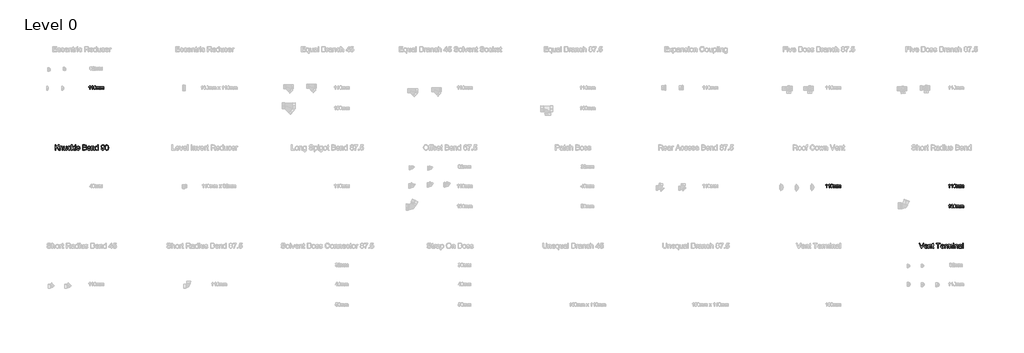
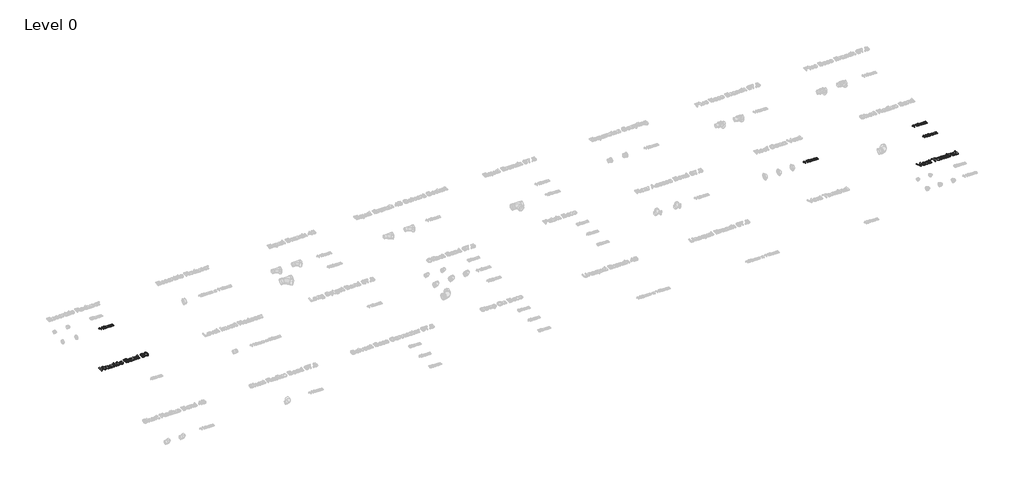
# One storey, part 8 of 28: 6 proxies.
"""IFC4 building model written with IfcOpenShell, lengths in millimetres."""

from ifc_helpers import new_model, si_unit, origin, origin_with_axes, place, context, project, spatial, polyline, outline, extrude, element, save

model = new_model("IFC4")

# Units and contexts
model_context = context("Model", 3, world=origin())
ifc_project = project(units=[si_unit("LENGTHUNIT", "METRE", prefix="MILLI")], contexts=[model_context])

# Site, building, storey
site = spatial("IfcSite", under=ifc_project)
building = spatial("IfcBuilding", under=site)
storey = spatial("IfcBuildingStorey", under=building, Name="Level 0", Elevation=0.0)

# Proxies
placement = place(None, origin())
element("IfcBuildingElementProxy", 1, Name="100mm Arial", ObjectType="100mm Arial", at=placement, inside=storey, context=model_context, shape_type="SweptSolid", body=[
    extrude(outline(polyline([(-20791.7293188, 2637.7167304), (-20804.0370111, 2637.7167304), (-20804.0370111, 2714.4474996), (-20815.6956649, 2706.1422111), (-20828.6523957, 2699.9282688), (-20828.6523957, 2711.5628842), (-20810.6115303, 2723.0773073), (-20799.6620111, 2736.1782688), (-20791.7293188, 2736.1782688), (-20791.7293188, 2637.7167304)])), origin_with_axes(), (0.0, 0.0, 1.0), 15.0),
    extrude(outline(polyline([(-20716.3447034, 2637.7167304), (-20728.6523957, 2637.7167304), (-20728.6523957, 2714.4474996), (-20740.3110495, 2706.1422111), (-20753.2677803, 2699.9282688), (-20753.2677803, 2711.5628842), (-20735.2269149, 2723.0773073), (-20724.2773957, 2736.1782688), (-20716.3447034, 2736.1782688), (-20716.3447034, 2637.7167304)])), origin_with_axes(), (0.0, 0.0, 1.0), 15.0),
    extrude(outline(polyline([(-20687.1139341, 2686.1542304), (-20683.4961457, 2714.4835573), (-20672.7509534, 2730.8176919), (-20654.8062418, 2736.1782688), (-20640.4312418, 2733.0051919), (-20630.5033572, 2723.8585573), (-20624.7341264, 2709.2912496), (-20622.4985495, 2686.1542304), (-20626.0802803, 2657.9450958), (-20636.7894149, 2641.5749035), (-20654.8062418, 2636.1782688), (-20667.5947034, 2638.5220188), (-20677.3062418, 2645.5532688), (-20684.6620111, 2662.2059131), (-20687.1139341, 2686.1542304)]), holes=[polyline([(-20674.8062418, 2686.1782688), (-20673.3639341, 2666.8182929), (-20669.0370111, 2655.613365), (-20662.5947034, 2650.2678121), (-20654.8062418, 2648.4859611), (-20647.0177803, 2650.2738217), (-20640.5754726, 2655.6374035), (-20636.2485495, 2666.848341), (-20634.8062418, 2686.1782688), (-20636.2004726, 2705.1025477), (-20640.3831649, 2716.394615), (-20646.8134534, 2722.0015861), (-20654.9504726, 2723.8705765), (-20662.6547995, 2722.2239419), (-20668.8447034, 2717.2840381), (-20673.3158572, 2705.2888458), (-20674.8062418, 2686.1782688)])]), origin_with_axes(), (0.0, 0.0, 1.0), 15.0),
    extrude(outline(polyline([(-20608.6523957, 2637.7167304), (-20608.6523957, 2710.0244227), (-20596.3447034, 2710.0244227), (-20596.3447034, 2698.1253842), (-20587.8831649, 2707.8729804), (-20575.8398957, 2711.5628842), (-20563.5081649, 2707.800865), (-20556.7293188, 2697.2599996), (-20547.1259534, 2707.9871631), (-20534.9985495, 2711.5628842), (-20525.7467466, 2710.0755044), (-20518.9047995, 2705.613365), (-20514.6770351, 2698.0562736), (-20513.2677803, 2687.2840381), (-20513.2677803, 2637.7167304), (-20525.5754726, 2637.7167304), (-20525.5754726, 2681.9955765), (-20526.7172995, 2692.2720188), (-20530.8519149, 2697.332115), (-20537.8831649, 2699.2551919), (-20549.9865303, 2694.3273073), (-20554.8062418, 2678.5340381), (-20554.8062418, 2637.7167304), (-20567.1139341, 2637.7167304), (-20567.1139341, 2683.3657688), (-20569.9624918, 2695.2888458), (-20579.3014341, 2699.2551919), (-20588.4120111, 2696.6109611), (-20594.4697034, 2688.8705765), (-20596.3447034, 2674.1830765), (-20596.3447034, 2637.7167304), (-20608.6523957, 2637.7167304)])), origin_with_axes(), (0.0, 0.0, 1.0), 15.0),
    extrude(outline(polyline([(-20494.8062418, 2637.7167304), (-20494.8062418, 2710.0244227), (-20482.4985495, 2710.0244227), (-20482.4985495, 2698.1253842), (-20474.0370111, 2707.8729804), (-20461.9937418, 2711.5628842), (-20449.6620111, 2707.800865), (-20442.8831649, 2697.2599996), (-20433.2797995, 2707.9871631), (-20421.1523957, 2711.5628842), (-20411.9005928, 2710.0755044), (-20405.0586457, 2705.613365), (-20400.8308813, 2698.0562736), (-20399.4216264, 2687.2840381), (-20399.4216264, 2637.7167304), (-20411.7293188, 2637.7167304), (-20411.7293188, 2681.9955765), (-20412.8711457, 2692.2720188), (-20417.0057611, 2697.332115), (-20424.0370111, 2699.2551919), (-20436.1403764, 2694.3273073), (-20440.960088, 2678.5340381), (-20440.960088, 2637.7167304), (-20453.2677803, 2637.7167304), (-20453.2677803, 2683.3657688), (-20456.116338, 2695.2888458), (-20465.4552803, 2699.2551919), (-20474.5658572, 2696.6109611), (-20480.6235495, 2688.8705765), (-20482.4985495, 2674.1830765), (-20482.4985495, 2637.7167304), (-20494.8062418, 2637.7167304)])), origin_with_axes(), (0.0, 0.0, 1.0), 15.0),
])
element("IfcBuildingElementProxy", 2, Name="100mm Arial", ObjectType="100mm Arial", at=placement, inside=storey, context=model_context, shape_type="SweptSolid", body=[
    extrude(outline(polyline([(208.2706812, -162.2832696), (195.9629889, -162.2832696), (195.9629889, -85.5525004), (184.3043351, -93.8577889), (171.3476043, -100.0717312), (171.3476043, -88.4371158), (189.3884697, -76.9226927), (200.3379889, -63.8217312), (208.2706812, -63.8217312), (208.2706812, -162.2832696)])), origin_with_axes(), (0.0, 0.0, 1.0), 15.0),
    extrude(outline(polyline([(283.6552966, -162.2832696), (271.3476043, -162.2832696), (271.3476043, -85.5525004), (259.6889505, -93.8577889), (246.7322197, -100.0717312), (246.7322197, -88.4371158), (264.7730851, -76.9226927), (275.7226043, -63.8217312), (283.6552966, -63.8217312), (283.6552966, -162.2832696)])), origin_with_axes(), (0.0, 0.0, 1.0), 15.0),
    extrude(outline(polyline([(312.8860659, -113.8457696), (316.5038543, -85.5164427), (327.2490466, -69.1823081), (345.1937582, -63.8217312), (359.5687582, -66.9948081), (369.4966428, -76.1414427), (375.2658736, -90.7087504), (377.5014505, -113.8457696), (373.9197197, -142.0549042), (363.2105851, -158.4250965), (345.1937582, -163.8217312), (332.4052966, -161.4779812), (322.6937582, -154.4467312), (315.3379889, -137.7940869), (312.8860659, -113.8457696)]), holes=[polyline([(325.1937582, -113.8217312), (326.6360659, -133.1817071), (330.9629889, -144.386635), (337.4052966, -149.7321879), (345.1937582, -151.5140389), (352.9822197, -149.7261783), (359.4245274, -144.3625965), (363.7514505, -133.151659), (365.1937582, -113.8217312), (363.7995274, -94.8974523), (359.6168351, -83.605385), (353.1865466, -77.9984139), (345.0495274, -76.1294235), (337.3452005, -77.7760581), (331.1552966, -82.7159619), (326.6841428, -94.7111542), (325.1937582, -113.8217312)])]), origin_with_axes(), (0.0, 0.0, 1.0), 15.0),
    extrude(outline(polyline([(391.3476043, -162.2832696), (391.3476043, -89.9755773), (403.6552966, -89.9755773), (403.6552966, -101.8746158), (412.1168351, -92.1270196), (424.1601043, -88.4371158), (436.4918351, -92.199135), (443.2706812, -102.7400004), (452.8740466, -92.0128369), (465.0014505, -88.4371158), (474.2532534, -89.9244956), (481.0952005, -94.386635), (485.3229649, -101.9437264), (486.7322197, -112.7159619), (486.7322197, -162.2832696), (474.4245274, -162.2832696), (474.4245274, -118.0044235), (473.2827005, -107.7279812), (469.1480851, -102.667885), (462.1168351, -100.7448081), (450.0134697, -105.6726927), (445.1937582, -121.4659619), (445.1937582, -162.2832696), (432.8860659, -162.2832696), (432.8860659, -116.6342312), (430.0375082, -104.7111542), (420.6985659, -100.7448081), (411.5879889, -103.3890389), (405.5302966, -111.1294235), (403.6552966, -125.8169235), (403.6552966, -162.2832696), (391.3476043, -162.2832696)])), origin_with_axes(), (0.0, 0.0, 1.0), 15.0),
    extrude(outline(polyline([(505.1937582, -162.2832696), (505.1937582, -89.9755773), (517.5014505, -89.9755773), (517.5014505, -101.8746158), (525.9629889, -92.1270196), (538.0062582, -88.4371158), (550.3379889, -92.199135), (557.1168351, -102.7400004), (566.7202005, -92.0128369), (578.8476043, -88.4371158), (588.0994072, -89.9244956), (594.9413543, -94.386635), (599.1691187, -101.9437264), (600.5783736, -112.7159619), (600.5783736, -162.2832696), (588.2706812, -162.2832696), (588.2706812, -118.0044235), (587.1288543, -107.7279812), (582.9942389, -102.667885), (575.9629889, -100.7448081), (563.8596236, -105.6726927), (559.039912, -121.4659619), (559.039912, -162.2832696), (546.7322197, -162.2832696), (546.7322197, -116.6342312), (543.883662, -104.7111542), (534.5447197, -100.7448081), (525.4341428, -103.3890389), (519.3764505, -111.1294235), (517.5014505, -125.8169235), (517.5014505, -162.2832696), (505.1937582, -162.2832696)])), origin_with_axes(), (0.0, 0.0, 1.0), 15.0),
])
element("IfcBuildingElementProxy", 3, Name="100mm Arial", ObjectType="100mm Arial", at=placement, inside=storey, context=model_context, shape_type="SweptSolid", body=[
    extrude(outline(polyline([(3708.2706812, -162.2832696), (3695.9629889, -162.2832696), (3695.9629889, -85.5525004), (3684.3043351, -93.8577889), (3671.3476043, -100.0717312), (3671.3476043, -88.4371158), (3689.3884697, -76.9226927), (3700.3379889, -63.8217312), (3708.2706812, -63.8217312), (3708.2706812, -162.2832696)])), origin_with_axes(), (0.0, 0.0, 1.0), 15.0),
    extrude(outline(polyline([(3783.6552966, -162.2832696), (3771.3476043, -162.2832696), (3771.3476043, -85.5525004), (3759.6889505, -93.8577889), (3746.7322197, -100.0717312), (3746.7322197, -88.4371158), (3764.7730851, -76.9226927), (3775.7226043, -63.8217312), (3783.6552966, -63.8217312), (3783.6552966, -162.2832696)])), origin_with_axes(), (0.0, 0.0, 1.0), 15.0),
    extrude(outline(polyline([(3812.8860659, -113.8457696), (3816.5038543, -85.5164427), (3827.2490466, -69.1823081), (3845.1937582, -63.8217312), (3859.5687582, -66.9948081), (3869.4966428, -76.1414427), (3875.2658736, -90.7087504), (3877.5014505, -113.8457696), (3873.9197197, -142.0549042), (3863.2105851, -158.4250965), (3845.1937582, -163.8217312), (3832.4052966, -161.4779812), (3822.6937582, -154.4467312), (3815.3379889, -137.7940869), (3812.8860659, -113.8457696)]), holes=[polyline([(3825.1937582, -113.8217312), (3826.6360659, -133.1817071), (3830.9629889, -144.386635), (3837.4052966, -149.7321879), (3845.1937582, -151.5140389), (3852.9822197, -149.7261783), (3859.4245274, -144.3625965), (3863.7514505, -133.151659), (3865.1937582, -113.8217312), (3863.7995274, -94.8974523), (3859.6168351, -83.605385), (3853.1865466, -77.9984139), (3845.0495274, -76.1294235), (3837.3452005, -77.7760581), (3831.1552966, -82.7159619), (3826.6841428, -94.7111542), (3825.1937582, -113.8217312)])]), origin_with_axes(), (0.0, 0.0, 1.0), 15.0),
    extrude(outline(polyline([(3891.3476043, -162.2832696), (3891.3476043, -89.9755773), (3903.6552966, -89.9755773), (3903.6552966, -101.8746158), (3912.1168351, -92.1270196), (3924.1601043, -88.4371158), (3936.4918351, -92.199135), (3943.2706812, -102.7400004), (3952.8740466, -92.0128369), (3965.0014505, -88.4371158), (3974.2532534, -89.9244956), (3981.0952005, -94.386635), (3985.3229649, -101.9437264), (3986.7322197, -112.7159619), (3986.7322197, -162.2832696), (3974.4245274, -162.2832696), (3974.4245274, -118.0044235), (3973.2827005, -107.7279812), (3969.1480851, -102.667885), (3962.1168351, -100.7448081), (3950.0134697, -105.6726927), (3945.1937582, -121.4659619), (3945.1937582, -162.2832696), (3932.8860659, -162.2832696), (3932.8860659, -116.6342312), (3930.0375082, -104.7111542), (3920.6985659, -100.7448081), (3911.5879889, -103.3890389), (3905.5302966, -111.1294235), (3903.6552966, -125.8169235), (3903.6552966, -162.2832696), (3891.3476043, -162.2832696)])), origin_with_axes(), (0.0, 0.0, 1.0), 15.0),
    extrude(outline(polyline([(4005.1937582, -162.2832696), (4005.1937582, -89.9755773), (4017.5014505, -89.9755773), (4017.5014505, -101.8746158), (4025.9629889, -92.1270196), (4038.0062582, -88.4371158), (4050.3379889, -92.199135), (4057.1168351, -102.7400004), (4066.7202005, -92.0128369), (4078.8476043, -88.4371158), (4088.0994072, -89.9244956), (4094.9413543, -94.386635), (4099.1691187, -101.9437264), (4100.5783736, -112.7159619), (4100.5783736, -162.2832696), (4088.2706812, -162.2832696), (4088.2706812, -118.0044235), (4087.1288543, -107.7279812), (4082.9942389, -102.667885), (4075.9629889, -100.7448081), (4063.8596236, -105.6726927), (4059.039912, -121.4659619), (4059.039912, -162.2832696), (4046.7322197, -162.2832696), (4046.7322197, -116.6342312), (4043.883662, -104.7111542), (4034.5447197, -100.7448081), (4025.4341428, -103.3890389), (4019.3764505, -111.1294235), (4017.5014505, -125.8169235), (4017.5014505, -162.2832696), (4005.1937582, -162.2832696)])), origin_with_axes(), (0.0, 0.0, 1.0), 15.0),
])
element("IfcBuildingElementProxy", 4, Name="100mm Arial", ObjectType="100mm Arial", at=placement, inside=storey, context=model_context, shape_type="SweptSolid", body=[
    extrude(outline(polyline([(3708.2706812, -742.2832696), (3695.9629889, -742.2832696), (3695.9629889, -665.5525004), (3684.3043351, -673.8577889), (3671.3476043, -680.0717312), (3671.3476043, -668.4371158), (3689.3884697, -656.9226927), (3700.3379889, -643.8217312), (3708.2706812, -643.8217312), (3708.2706812, -742.2832696)])), origin_with_axes(), (0.0, 0.0, 1.0), 15.0),
    extrude(outline(polyline([(3800.5783736, -669.9755773), (3788.2706812, -671.5140389), (3783.6072197, -661.2496158), (3771.2754889, -656.1294235), (3760.1697197, -659.1101927), (3751.7682774, -670.3000965), (3748.2706812, -692.2351927), (3759.1240466, -682.4154812), (3772.5735659, -679.2063465), (3783.9437582, -681.3998562), (3793.4870274, -687.980385), (3799.9593832, -698.0344715), (3802.1168351, -710.6486542), (3798.0543351, -727.6318273), (3786.8764505, -739.6510581), (3770.7466428, -743.8217312), (3756.7833014, -741.0573081), (3745.6625082, -732.7640389), (3738.3878687, -718.1246158), (3735.9629889, -696.3217312), (3738.6552966, -671.80851), (3746.7322197, -655.0476927), (3757.7598639, -646.6282215), (3772.0447197, -643.8217312), (3782.8439986, -645.55851), (3791.4918351, -650.7688465), (3797.5495274, -659.0440869), (3800.5783736, -669.9755773)]), holes=[polyline([(3748.2706812, -710.4563465), (3751.1192389, -721.1174042), (3758.6913543, -728.8577889), (3769.7851043, -731.5140389), (3777.9070995, -730.1378369), (3784.2923159, -726.0092312), (3788.4299361, -719.5188465), (3789.8091428, -711.0573081), (3788.4479649, -702.9353129), (3784.3644312, -696.7424042), (3769.2802966, -691.5140389), (3754.3884697, -696.7424042), (3749.8001284, -702.7850725), (3748.2706812, -710.4563465)])]), origin_with_axes(), (0.0, 0.0, 1.0), 15.0),
    extrude(outline(polyline([(3812.8860659, -693.8457696), (3816.5038543, -665.5164427), (3827.2490466, -649.1823081), (3845.1937582, -643.8217312), (3859.5687582, -646.9948081), (3869.4966428, -656.1414427), (3875.2658736, -670.7087504), (3877.5014505, -693.8457696), (3873.9197197, -722.0549042), (3863.2105851, -738.4250965), (3845.1937582, -743.8217312), (3832.4052966, -741.4779812), (3822.6937582, -734.4467312), (3815.3379889, -717.7940869), (3812.8860659, -693.8457696)]), holes=[polyline([(3825.1937582, -693.8217312), (3826.6360659, -713.1817071), (3830.9629889, -724.386635), (3837.4052966, -729.7321879), (3845.1937582, -731.5140389), (3852.9822197, -729.7261783), (3859.4245274, -724.3625965), (3863.7514505, -713.151659), (3865.1937582, -693.8217312), (3863.7995274, -674.8974523), (3859.6168351, -663.605385), (3853.1865466, -657.9984139), (3845.0495274, -656.1294235), (3837.3452005, -657.7760581), (3831.1552966, -662.7159619), (3826.6841428, -674.7111542), (3825.1937582, -693.8217312)])]), origin_with_axes(), (0.0, 0.0, 1.0), 15.0),
    extrude(outline(polyline([(3891.3476043, -742.2832696), (3891.3476043, -669.9755773), (3903.6552966, -669.9755773), (3903.6552966, -681.8746158), (3912.1168351, -672.1270196), (3924.1601043, -668.4371158), (3936.4918351, -672.199135), (3943.2706812, -682.7400004), (3952.8740466, -672.0128369), (3965.0014505, -668.4371158), (3974.2532534, -669.9244956), (3981.0952005, -674.386635), (3985.3229649, -681.9437264), (3986.7322197, -692.7159619), (3986.7322197, -742.2832696), (3974.4245274, -742.2832696), (3974.4245274, -698.0044235), (3973.2827005, -687.7279812), (3969.1480851, -682.667885), (3962.1168351, -680.7448081), (3950.0134697, -685.6726927), (3945.1937582, -701.4659619), (3945.1937582, -742.2832696), (3932.8860659, -742.2832696), (3932.8860659, -696.6342312), (3930.0375082, -684.7111542), (3920.6985659, -680.7448081), (3911.5879889, -683.3890389), (3905.5302966, -691.1294235), (3903.6552966, -705.8169235), (3903.6552966, -742.2832696), (3891.3476043, -742.2832696)])), origin_with_axes(), (0.0, 0.0, 1.0), 15.0),
    extrude(outline(polyline([(4005.1937582, -742.2832696), (4005.1937582, -669.9755773), (4017.5014505, -669.9755773), (4017.5014505, -681.8746158), (4025.9629889, -672.1270196), (4038.0062582, -668.4371158), (4050.3379889, -672.199135), (4057.1168351, -682.7400004), (4066.7202005, -672.0128369), (4078.8476043, -668.4371158), (4088.0994072, -669.9244956), (4094.9413543, -674.386635), (4099.1691187, -681.9437264), (4100.5783736, -692.7159619), (4100.5783736, -742.2832696), (4088.2706812, -742.2832696), (4088.2706812, -698.0044235), (4087.1288543, -687.7279812), (4082.9942389, -682.667885), (4075.9629889, -680.7448081), (4063.8596236, -685.6726927), (4059.039912, -701.4659619), (4059.039912, -742.2832696), (4046.7322197, -742.2832696), (4046.7322197, -696.6342312), (4043.883662, -684.7111542), (4034.5447197, -680.7448081), (4025.4341428, -683.3890389), (4019.3764505, -691.1294235), (4017.5014505, -705.8169235), (4017.5014505, -742.2832696), (4005.1937582, -742.2832696)])), origin_with_axes(), (0.0, 0.0, 1.0), 15.0),
])
element("IfcBuildingElementProxy", 5, Name="150mm Arial", ObjectType="150mm Arial", at=placement, inside=storey, context=model_context, shape_type="SweptSolid", body=[
    extrude(outline(polyline([(-21785.9895281, 905.2145219), (-21785.9895281, 1052.9068296), (-21767.5279897, 1052.9068296), (-21767.5279897, 980.6111565), (-21691.8068358, 1052.9068296), (-21665.9895281, 1052.9068296), (-21729.5592397, 992.1856758), (-21663.6818358, 905.2145219), (-21686.2539512, 905.2145219), (-21742.648182, 979.7097142), (-21767.5279897, 955.9837527), (-21767.5279897, 905.2145219), (-21785.9895281, 905.2145219)])), origin_with_axes(), (0.0, 0.0, 1.0), 25.0),
    extrude(outline(polyline([(-21652.1433743, 905.2145219), (-21652.1433743, 1013.6760604), (-21633.6818358, 1013.6760604), (-21633.6818358, 998.5318296), (-21619.5652493, 1011.6207719), (-21600.2924127, 1015.9837527), (-21582.8585185, 1012.4681277), (-21570.95948, 1003.2373585), (-21565.4246243, 989.6616373), (-21564.4510666, 971.8130796), (-21564.4510666, 905.2145219), (-21582.912605, 905.2145219), (-21582.912605, 969.3250988), (-21585.0400089, 985.6592335), (-21592.5580377, 994.2950508), (-21605.2323166, 997.5222142), (-21616.0451171, 995.7103152), (-21625.2623647, 990.2746181), (-21631.576968, 979.7728152), (-21633.6818358, 962.7625988), (-21633.6818358, 905.2145219), (-21652.1433743, 905.2145219)])), origin_with_axes(), (0.0, 0.0, 1.0), 25.0),
    extrude(outline(polyline([(-21469.835682, 905.2145219), (-21469.835682, 923.8563488), (-21484.2948166, 908.1442094), (-21503.1529897, 902.9068296), (-21520.5147685, 906.5847142), (-21532.4859223, 915.8154835), (-21537.9847204, 929.4092335), (-21539.0664512, 946.572695), (-21539.0664512, 1013.6760604), (-21520.6049127, 1013.6760604), (-21520.6049127, 955.2625988), (-21519.4871243, 936.4404835), (-21512.1854416, 925.3888008), (-21498.429432, 921.3683681), (-21483.0147685, 925.478945), (-21472.8284704, 936.6748585), (-21469.835682, 957.2457719), (-21469.835682, 1013.6760604), (-21451.3741435, 1013.6760604), (-21451.3741435, 905.2145219), (-21469.835682, 905.2145219)])), origin_with_axes(), (0.0, 0.0, 1.0), 25.0),
    extrude(outline(polyline([(-21356.7587589, 944.4452911), (-21338.2972204, 942.1375988), (-21343.444456, 925.7178272), (-21353.116932, 913.3094738), (-21366.4041916, 905.5074907), (-21382.3957781, 902.9068296), (-21402.0336988, 906.5351349), (-21417.3897685, 917.4200508), (-21427.3011267, 935.0838128), (-21430.6049127, 959.0486565), (-21424.9618839, 989.7157238), (-21417.8404897, 1001.2136205), (-21407.7623647, 1009.4212527), (-21395.7055738, 1014.3431277), (-21382.648182, 1015.9837527), (-21367.0487228, 1013.7301469), (-21354.5772685, 1006.9693296), (-21345.6304536, 996.0618777), (-21340.6049127, 981.3683681), (-21359.0664512, 979.0606758), (-21367.6301531, 992.8888008), (-21382.5039512, 997.5222142), (-21394.4345401, 995.2415652), (-21403.9041916, 988.3996181), (-21410.0835786, 976.6267815), (-21412.1433743, 959.5534642), (-21410.1286507, 942.2502791), (-21404.08448, 930.4368777), (-21394.7861026, 923.6354955), (-21383.0087589, 921.3683681), (-21373.4489632, 922.7836325), (-21365.6109223, 927.0294258), (-21359.9092997, 934.213921), (-21356.7587589, 944.4452911)])), origin_with_axes(), (0.0, 0.0, 1.0), 25.0),
    extrude(outline(polyline([(-21322.1433743, 905.2145219), (-21322.1433743, 1052.9068296), (-21303.6818358, 1052.9068296), (-21303.6818358, 973.5438488), (-21262.287605, 1013.6760604), (-21236.7587589, 1013.6760604), (-21278.6577973, 973.0390411), (-21234.4510666, 905.2145219), (-21256.0135666, 905.2145219), (-21291.8909704, 960.2025027), (-21303.6818358, 948.7722142), (-21303.6818358, 905.2145219), (-21322.1433743, 905.2145219)])), origin_with_axes(), (0.0, 0.0, 1.0), 25.0),
    extrude(outline(polyline([(-21218.2972204, 905.2145219), (-21218.2972204, 1052.9068296), (-21199.835682, 1052.9068296), (-21199.835682, 905.2145219), (-21218.2972204, 905.2145219)])), origin_with_axes(), (0.0, 0.0, 1.0), 25.0),
    extrude(outline(polyline([(-21096.2058743, 937.5222142), (-21078.1049127, 935.2145219), (-21084.6268478, 921.5756998), (-21095.0339993, 911.3803873), (-21109.0919921, 905.025219), (-21126.5664512, 902.9068296), (-21148.2281098, 906.5621782), (-21164.8957781, 917.5282238), (-21175.5237829, 935.0928272), (-21179.0664512, 958.5438488), (-21175.4877252, 982.7836325), (-21164.7515473, 1000.9116373), (-21148.3092397, 1012.2157238), (-21127.6121243, 1015.9837527), (-21107.5595401, 1012.2247383), (-21091.5364031, 1000.947695), (-21081.030093, 982.8557479), (-21077.5279897, 958.6520219), (-21077.6361627, 953.6760604), (-21160.6049127, 953.6760604), (-21157.4092997, 939.8569498), (-21149.9859223, 929.697695), (-21139.2722805, 923.4506998), (-21126.2058743, 921.3683681), (-21108.1049127, 925.2265411), (-21096.2058743, 937.5222142)]), holes=[polyline([(-21160.6049127, 972.1375988), (-21095.9895281, 972.1375988), (-21098.4865233, 981.8912046), (-21103.381355, 988.8683681), (-21114.1445762, 995.3587527), (-21127.6842397, 997.5222142), (-21140.1286507, 995.7959522), (-21150.4186147, 990.6171661), (-21157.5715594, 982.5447503), (-21160.6049127, 972.1375988)])]), origin_with_axes(), (0.0, 0.0, 1.0), 25.0),
    extrude(outline(polyline([(-20999.0664512, 905.2145219), (-20999.0664512, 1052.9068296), (-20942.7082781, 1052.9068296), (-20915.1061147, 1048.5618777), (-20905.8302733, 1043.049558), (-20898.8080377, 1035.2025027), (-20892.912605, 1016.3082719), (-20897.8705377, 999.0546661), (-20912.8525089, 985.9837527), (-20902.3912709, 980.5210123), (-20894.6614031, 972.2097142), (-20889.8882661, 961.5997383), (-20888.2972204, 949.2409642), (-20892.6421723, 929.3912046), (-20903.4053935, 915.2565892), (-20919.4690954, 907.7565892), (-20943.1409704, 905.2145219), (-20999.0664512, 905.2145219)]), holes=[polyline([(-20980.6049127, 923.6760604), (-20942.7443358, 923.6760604), (-20929.0424127, 924.3972142), (-20917.4498647, 928.4176469), (-20909.7695762, 936.6207719), (-20906.7587589, 949.0606758), (-20910.2924127, 963.4116373), (-20921.74073, 971.9753392), (-20944.5472204, 974.4452911), (-20980.6049127, 974.4452911), (-20980.6049127, 923.6760604)]), polyline([(-20980.6049127, 992.9068296), (-20946.8909704, 992.9068296), (-20927.2034704, 994.4933681), (-20915.3585185, 1001.3263008), (-20911.3741435, 1013.3515411), (-20915.0880858, 1025.3948104), (-20925.725105, 1032.5162046), (-20949.4510666, 1034.4452911), (-20980.6049127, 1034.4452911), (-20980.6049127, 992.9068296)])]), origin_with_axes(), (0.0, 0.0, 1.0), 25.0),
    extrude(outline(polyline([(-20789.2827973, 937.5222142), (-20771.1818358, 935.2145219), (-20777.7037709, 921.5756998), (-20788.1109223, 911.3803873), (-20802.1689151, 905.025219), (-20819.6433743, 902.9068296), (-20841.3050329, 906.5621782), (-20857.9727012, 917.5282238), (-20868.600706, 935.0928272), (-20872.1433743, 958.5438488), (-20868.5646483, 982.7836325), (-20857.8284704, 1000.9116373), (-20841.3861627, 1012.2157238), (-20820.6890473, 1015.9837527), (-20800.6364632, 1012.2247383), (-20784.6133262, 1000.947695), (-20774.1070161, 982.8557479), (-20770.6049127, 958.6520219), (-20770.7130858, 953.6760604), (-20853.6818358, 953.6760604), (-20850.4862228, 939.8569498), (-20843.0628454, 929.697695), (-20832.3492036, 923.4506998), (-20819.2827973, 921.3683681), (-20801.1818358, 925.2265411), (-20789.2827973, 937.5222142)]), holes=[polyline([(-20853.6818358, 972.1375988), (-20789.0664512, 972.1375988), (-20791.5634464, 981.8912046), (-20796.4582781, 988.8683681), (-20807.2214993, 995.3587527), (-20820.7611627, 997.5222142), (-20833.2055738, 995.7959522), (-20843.4955377, 990.6171661), (-20850.6484824, 982.5447503), (-20853.6818358, 972.1375988)])]), origin_with_axes(), (0.0, 0.0, 1.0), 25.0),
    extrude(outline(polyline([(-20752.1433743, 905.2145219), (-20752.1433743, 1013.6760604), (-20733.6818358, 1013.6760604), (-20733.6818358, 998.5318296), (-20719.5652493, 1011.6207719), (-20700.2924127, 1015.9837527), (-20682.8585185, 1012.4681277), (-20670.95948, 1003.2373585), (-20665.4246243, 989.6616373), (-20664.4510666, 971.8130796), (-20664.4510666, 905.2145219), (-20682.912605, 905.2145219), (-20682.912605, 969.3250988), (-20685.0400089, 985.6592335), (-20692.5580377, 994.2950508), (-20705.2323166, 997.5222142), (-20716.0451171, 995.7103152), (-20725.2623647, 990.2746181), (-20731.576968, 979.7728152), (-20733.6818358, 962.7625988), (-20733.6818358, 905.2145219), (-20752.1433743, 905.2145219)])), origin_with_axes(), (0.0, 0.0, 1.0), 25.0),
    extrude(outline(polyline([(-20572.1433743, 905.2145219), (-20572.1433743, 922.6303873), (-20584.3579175, 907.837719), (-20601.241932, 902.9068296), (-20613.1770281, 904.6916854), (-20624.1025089, 910.0462527), (-20633.351307, 918.596433), (-20640.256355, 929.9681277), (-20644.5562348, 943.7016012), (-20645.9895281, 959.3371181), (-20640.7070762, 988.7241373), (-20634.1085185, 1000.3797863), (-20624.8777493, 1008.9525027), (-20613.7133863, 1014.2259402), (-20601.3140473, 1015.9837527), (-20584.2948166, 1010.9537046), (-20572.1433743, 997.8827911), (-20572.1433743, 1052.9068296), (-20553.6818358, 1052.9068296), (-20553.6818358, 905.2145219), (-20572.1433743, 905.2145219)]), holes=[polyline([(-20627.5279897, 959.4092335), (-20625.4456579, 942.7100147), (-20619.1986627, 930.8335123), (-20610.1211387, 923.7346541), (-20599.5472204, 921.3683681), (-20588.9778094, 923.6264811), (-20580.1301531, 930.40082), (-20574.140069, 941.8175868), (-20572.1433743, 958.0029835), (-20574.1761267, 975.698296), (-20580.2743839, 987.9669258), (-20589.3474007, 995.1333921), (-20600.304432, 997.5222142), (-20610.9865233, 995.2280436), (-20619.7395281, 988.3455315), (-20625.5808743, 976.5231157), (-20627.5279897, 959.4092335)])]), origin_with_axes(), (0.0, 0.0, 1.0), 25.0),
    extrude(outline(polyline([(-20470.6049127, 942.1375988), (-20452.1433743, 944.4452911), (-20448.9883262, 933.9660243), (-20443.850105, 926.8311085), (-20428.1289512, 921.3683681), (-20413.1830377, 924.8839931), (-20403.0508262, 934.2770219), (-20397.0111627, 950.322695), (-20394.3428935, 971.7409642), (-20394.4510666, 975.3467335), (-20409.2166916, 961.3563488), (-20429.4630858, 955.9837527), (-20446.2975209, 959.2650027), (-20460.3104416, 969.1087527), (-20469.7620642, 984.3160844), (-20472.912605, 1003.6880796), (-20469.608819, 1023.7000988), (-20459.6974608, 1039.385195), (-20444.8101411, 1049.526421), (-20426.5784704, 1052.9068296), (-20412.8089392, 1050.9777431), (-20400.2743839, 1045.1904835), (-20389.7906098, 1035.8335123), (-20382.1734223, 1023.1952911), (-20377.5355017, 1005.7253392), (-20375.9895281, 981.8731758), (-20377.5309945, 956.5832118), (-20382.1553935, 937.0354354), (-20389.8221603, 922.346433), (-20400.49073, 911.6327911), (-20413.7013671, 905.08832), (-20428.9943358, 902.9068296), (-20444.7785906, 905.4804474), (-20457.3717397, 913.2013008), (-20466.178831, 925.5826109), (-20470.6049127, 942.1375988)]), holes=[polyline([(-20394.4510666, 1004.1207719), (-20396.4432541, 1016.6327911), (-20402.4198166, 1026.260195), (-20411.6956579, 1032.3990171), (-20423.585682, 1034.4452911), (-20435.9174127, 1032.2412647), (-20445.7972204, 1025.6291854), (-20452.287605, 1015.5104955), (-20454.4510666, 1002.7866373), (-20452.4047925, 991.3788849), (-20446.2659704, 982.3238969), (-20436.6295522, 976.4149426), (-20424.0904897, 974.4452911), (-20412.2951171, 976.4149426), (-20402.7984223, 982.3238969), (-20396.5379055, 991.7124186), (-20394.4510666, 1004.1207719)])]), origin_with_axes(), (0.0, 0.0, 1.0), 25.0),
    extrude(outline(polyline([(-20359.835682, 977.8707719), (-20358.4790113, 1001.5110964), (-20354.4089993, 1020.3647623), (-20347.6662108, 1034.7202311), (-20338.2912108, 1044.8659642), (-20326.2163911, 1050.8966133), (-20311.3741435, 1052.9068296), (-20289.8116435, 1048.1472142), (-20274.9198166, 1034.4272623), (-20266.2659704, 1012.5763008), (-20262.912605, 977.8707719), (-20264.2557541, 954.3656637), (-20268.2852012, 935.55707), (-20274.9874247, 921.1880796), (-20284.3489031, 911.0017815), (-20296.4507661, 904.9305676), (-20311.3741435, 902.9068296), (-20330.5568358, 906.4224546), (-20345.1241435, 916.9693296), (-20356.1577973, 941.948296), (-20359.835682, 977.8707719)]), holes=[polyline([(-20341.3741435, 977.9068296), (-20339.210682, 948.8668657), (-20332.7202973, 932.0594738), (-20323.0568358, 924.0411445), (-20311.3741435, 921.3683681), (-20299.6914512, 924.0501589), (-20290.0279897, 932.0955315), (-20283.537605, 948.9119378), (-20281.3741435, 977.9068296), (-20283.4654897, 1006.2932479), (-20289.7395281, 1023.2313488), (-20299.3849608, 1031.6418056), (-20311.5904897, 1034.4452911), (-20323.14698, 1031.9753392), (-20332.4318358, 1024.5654835), (-20339.1385666, 1006.572695), (-20341.3741435, 977.9068296)])]), origin_with_axes(), (0.0, 0.0, 1.0), 25.0),
])
element("IfcBuildingElementProxy", 6, Name="150mm Arial", ObjectType="150mm Arial", at=placement, inside=storey, context=model_context, shape_type="SweptSolid", body=[
    extrude(outline(polyline([(2893.7941257, -1894.7854781), (2835.0200873, -1747.0931704), (2854.7797027, -1747.0931704), (2894.118645, -1853.4994204), (2902.087395, -1877.4777858), (2909.9479719, -1853.4994204), (2949.3950873, -1747.0931704), (2969.1547027, -1747.0931704), (2912.868645, -1894.7854781), (2893.7941257, -1894.7854781)])), origin_with_axes(), (0.0, 0.0, 1.0), 25.0),
    extrude(outline(polyline([(3059.9479719, -1862.4777858), (3078.0489334, -1864.7854781), (3071.5269983, -1878.4243002), (3061.1198469, -1888.6196127), (3047.0618541, -1894.974781), (3029.587395, -1897.0931704), (3007.9257363, -1893.4378218), (2991.258068, -1882.4717762), (2980.6300632, -1864.9071728), (2977.087395, -1841.4561512), (2980.6661209, -1817.2163675), (2991.4022988, -1799.0883627), (3007.8446065, -1787.7842762), (3028.5417219, -1784.0162473), (3048.594306, -1787.7752617), (3064.617443, -1799.052305), (3075.1237531, -1817.1442521), (3078.6258565, -1841.3479781), (3078.5176834, -1846.3239396), (2995.5489334, -1846.3239396), (2998.7445464, -1860.1430502), (3006.1679238, -1870.302305), (3016.8815656, -1876.5493002), (3029.9479719, -1878.6316319), (3048.0489334, -1874.7734589), (3059.9479719, -1862.4777858)]), holes=[polyline([(2995.5489334, -1827.8624012), (3060.164318, -1827.8624012), (3057.6673228, -1818.1087954), (3052.7724911, -1811.1316319), (3042.00927, -1804.6412473), (3028.4696065, -1802.4777858), (3016.0251954, -1804.2040478), (3005.7352315, -1809.3828339), (2998.5822868, -1817.4552497), (2995.5489334, -1827.8624012)])]), origin_with_axes(), (0.0, 0.0, 1.0), 25.0),
    extrude(outline(polyline([(3097.087395, -1894.7854781), (3097.087395, -1786.3239396), (3115.5489334, -1786.3239396), (3115.5489334, -1801.4681704), (3129.66552, -1788.3792281), (3148.9383565, -1784.0162473), (3166.3722507, -1787.5318723), (3178.2712892, -1796.7626415), (3183.806145, -1810.3383627), (3184.7797027, -1828.1869204), (3184.7797027, -1894.7854781), (3166.3181642, -1894.7854781), (3166.3181642, -1830.6749012), (3164.1907603, -1814.3407665), (3156.6727315, -1805.7049492), (3143.9984527, -1802.4777858), (3133.1856522, -1804.2896848), (3123.9684046, -1809.7253819), (3117.6538012, -1820.2271848), (3115.5489334, -1837.2374012), (3115.5489334, -1894.7854781), (3097.087395, -1894.7854781)])), origin_with_axes(), (0.0, 0.0, 1.0), 25.0),
    extrude(outline(polyline([(3249.3950873, -1879.3888435), (3251.7027796, -1895.3263435), (3237.8926834, -1897.0931704), (3222.4239334, -1894.0282665), (3214.7075873, -1885.9874012), (3212.4720103, -1865.0378819), (3212.4720103, -1804.7854781), (3198.6258565, -1804.7854781), (3198.6258565, -1786.3239396), (3212.4720103, -1786.3239396), (3212.4720103, -1759.9657665), (3230.9335488, -1749.1124012), (3230.9335488, -1786.3239396), (3249.3950873, -1786.3239396), (3249.3950873, -1804.7854781), (3230.9335488, -1804.7854781), (3230.9335488, -1864.4970165), (3231.9071065, -1874.0162473), (3235.0621546, -1877.3876415), (3241.3542219, -1878.6316319), (3249.3950873, -1879.3888435)])), origin_with_axes(), (0.0, 0.0, 1.0), 25.0),
    extrude(outline(polyline([(3364.7797027, -1894.7854781), (3364.7797027, -1765.5547089), (3316.3181642, -1765.5547089), (3316.3181642, -1747.0931704), (3431.7027796, -1747.0931704), (3431.7027796, -1765.5547089), (3383.2412411, -1765.5547089), (3383.2412411, -1894.7854781), (3364.7797027, -1894.7854781)])), origin_with_axes(), (0.0, 0.0, 1.0), 25.0),
    extrude(outline(polyline([(3526.101818, -1862.4777858), (3544.2027796, -1864.7854781), (3537.6808445, -1878.4243002), (3527.273693, -1888.6196127), (3513.2157003, -1894.974781), (3495.7412411, -1897.0931704), (3474.0795825, -1893.4378218), (3457.4119142, -1882.4717762), (3446.7839094, -1864.9071728), (3443.2412411, -1841.4561512), (3446.8199671, -1817.2163675), (3457.556145, -1799.0883627), (3473.9984527, -1787.7842762), (3494.695568, -1784.0162473), (3514.7481522, -1787.7752617), (3530.7712892, -1799.052305), (3541.2775993, -1817.1442521), (3544.7797027, -1841.3479781), (3544.6715296, -1846.3239396), (3461.7027796, -1846.3239396), (3464.8983926, -1860.1430502), (3472.32177, -1870.302305), (3483.0354118, -1876.5493002), (3496.101818, -1878.6316319), (3514.2027796, -1874.7734589), (3526.101818, -1862.4777858)]), holes=[polyline([(3461.7027796, -1827.8624012), (3526.3181642, -1827.8624012), (3523.821169, -1818.1087954), (3518.9263373, -1811.1316319), (3508.1631161, -1804.6412473), (3494.6234527, -1802.4777858), (3482.1790416, -1804.2040478), (3471.8890777, -1809.3828339), (3464.7361329, -1817.4552497), (3461.7027796, -1827.8624012)])]), origin_with_axes(), (0.0, 0.0, 1.0), 25.0),
    extrude(outline(polyline([(3563.2412411, -1894.7854781), (3563.2412411, -1786.3239396), (3579.3950873, -1786.3239396), (3579.3950873, -1802.3696127), (3590.8614334, -1787.5859589), (3602.399895, -1784.0162473), (3620.9335488, -1789.7133627), (3614.7676834, -1806.2638435), (3601.7869142, -1802.4777858), (3591.3482123, -1806.1196127), (3584.695568, -1816.2157665), (3581.7027796, -1837.7782665), (3581.7027796, -1894.7854781), (3563.2412411, -1894.7854781)])), origin_with_axes(), (0.0, 0.0, 1.0), 25.0),
    extrude(outline(polyline([(3632.4720103, -1894.7854781), (3632.4720103, -1786.3239396), (3650.9335488, -1786.3239396), (3650.9335488, -1804.1724973), (3663.6258565, -1789.5511031), (3681.6907603, -1784.0162473), (3691.9581882, -1785.4270045), (3700.1883565, -1789.6592762), (3710.3566257, -1805.4705742), (3724.7616738, -1789.379829), (3742.9527796, -1784.0162473), (3756.8304839, -1786.247317), (3767.0934046, -1792.9405262), (3773.4350512, -1804.2761632), (3775.5489334, -1820.4345165), (3775.5489334, -1894.7854781), (3757.087395, -1894.7854781), (3757.087395, -1828.3672089), (3755.3746546, -1812.9525454), (3749.1727315, -1805.3624012), (3738.6258565, -1802.4777858), (3728.6243541, -1804.3257425), (3720.4708084, -1809.8696127), (3715.0486329, -1819.4880021), (3713.2412411, -1833.5595165), (3713.2412411, -1894.7854781), (3694.7797027, -1894.7854781), (3694.7797027, -1826.3119204), (3690.5068661, -1808.427305), (3684.8683445, -1803.9651656), (3676.4984527, -1802.4777858), (3662.8325873, -1806.4441319), (3653.7460488, -1818.0547089), (3650.9335488, -1840.0859589), (3650.9335488, -1894.7854781), (3632.4720103, -1894.7854781)])), origin_with_axes(), (0.0, 0.0, 1.0), 25.0),
    extrude(outline(polyline([(3803.2412411, -1894.7854781), (3803.2412411, -1786.3239396), (3821.7027796, -1786.3239396), (3821.7027796, -1894.7854781), (3803.2412411, -1894.7854781)])), origin_with_axes(), (0.0, 0.0, 1.0), 25.0),
    extrude(outline(polyline([(3803.2412411, -1765.5547089), (3803.2412411, -1747.0931704), (3821.7027796, -1747.0931704), (3821.7027796, -1765.5547089), (3803.2412411, -1765.5547089)])), origin_with_axes(), (0.0, 0.0, 1.0), 25.0),
    extrude(outline(polyline([(3849.3950873, -1894.7854781), (3849.3950873, -1786.3239396), (3867.8566257, -1786.3239396), (3867.8566257, -1801.4681704), (3881.9732123, -1788.3792281), (3901.2460488, -1784.0162473), (3918.679943, -1787.5318723), (3930.5789815, -1796.7626415), (3936.1138373, -1810.3383627), (3937.087395, -1828.1869204), (3937.087395, -1894.7854781), (3918.6258565, -1894.7854781), (3918.6258565, -1830.6749012), (3916.4984527, -1814.3407665), (3908.9804238, -1805.7049492), (3896.306145, -1802.4777858), (3885.4933445, -1804.2896848), (3876.2760969, -1809.7253819), (3869.9614935, -1820.2271848), (3867.8566257, -1837.2374012), (3867.8566257, -1894.7854781), (3849.3950873, -1894.7854781)])), origin_with_axes(), (0.0, 0.0, 1.0), 25.0),
    extrude(outline(polyline([(4031.7027796, -1880.9393242), (4013.8001353, -1893.4513435), (3994.0224911, -1897.0931704), (3978.594306, -1894.9026656), (3967.2135969, -1888.3311512), (3960.1958685, -1878.3521848), (3957.8566257, -1865.9393242), (3961.3902796, -1851.3359589), (3970.6751353, -1840.7349973), (3983.601818, -1834.677305), (3999.5753757, -1831.9008627), (4031.5946065, -1825.5547089), (4031.7027796, -1821.4441319), (4030.4317459, -1813.2049492), (4026.618645, -1807.8143242), (4018.0910007, -1803.8119204), (4006.2099911, -1802.4777858), (3987.5321065, -1806.0294685), (3978.6258565, -1818.6316319), (3960.164318, -1816.3239396), (3968.1510969, -1798.2950935), (3984.2328277, -1787.7301896), (4008.5897988, -1784.0162473), (4030.9635969, -1787.2974973), (4043.601818, -1795.53668), (4049.2628757, -1808.0667281), (4050.164318, -1824.2205742), (4050.164318, -1847.1893242), (4051.101818, -1879.2626415), (4054.7797027, -1894.7854781), (4036.3181642, -1894.7854781), (4031.7027796, -1880.9393242)]), holes=[polyline([(4031.7027796, -1844.0162473), (4001.9191257, -1849.677305), (3986.0357123, -1852.6700935), (3978.8422027, -1857.5378819), (3976.3181642, -1864.6412473), (3981.8169623, -1874.6292281), (3997.9527796, -1878.6316319), (4016.6306642, -1874.2145646), (4028.6739334, -1863.5234589), (4031.5946065, -1849.2446127), (4031.7027796, -1844.0162473)])]), origin_with_axes(), (0.0, 0.0, 1.0), 25.0),
    extrude(outline(polyline([(4075.5489334, -1894.7854781), (4075.5489334, -1747.0931704), (4094.0104719, -1747.0931704), (4094.0104719, -1894.7854781), (4075.5489334, -1894.7854781)])), origin_with_axes(), (0.0, 0.0, 1.0), 25.0),
])

save(model, "model.ifc")
